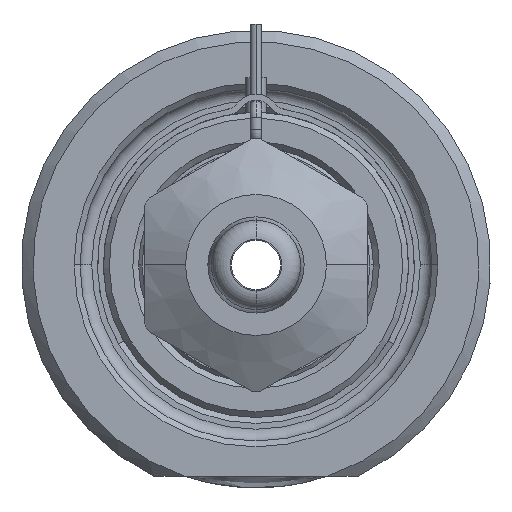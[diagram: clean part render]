
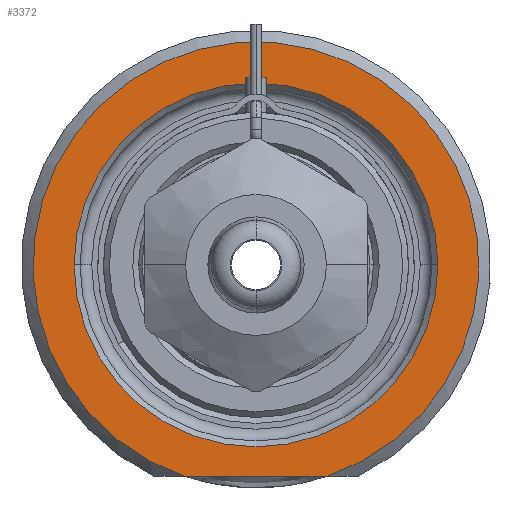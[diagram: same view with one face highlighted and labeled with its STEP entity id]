
A CAD part, front view. The second image highlights one B-rep face of the part: STEP entity #3372.
In plain terms, the highlighted planar face has unit normal (0, -1, 0).
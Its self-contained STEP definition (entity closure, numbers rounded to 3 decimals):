
#1=DIRECTION('',(1.,0.,0.));
#2=VECTOR('',#1,12.166);
#3=CARTESIAN_POINT('',(-6.083,0.,-18.));
#4=LINE('',#3,#2);
#5=CARTESIAN_POINT('',(0.,0.,0.));
#6=DIRECTION('',(0.,1.,0.));
#7=DIRECTION('',(-1.,0.,0.));
#8=AXIS2_PLACEMENT_3D('',#5,#6,#7);
#10=CARTESIAN_POINT('',(0.,0.,0.));
#11=DIRECTION('',(0.,1.,0.));
#12=DIRECTION('',(1.,0.,0.));
#13=AXIS2_PLACEMENT_3D('',#10,#11,#12);
#264=CARTESIAN_POINT('',(0.,0.,0.));
#265=DIRECTION('',(0.,-1.,0.));
#266=DIRECTION('',(0.32,0.,-0.947));
#267=AXIS2_PLACEMENT_3D('',#264,#265,#266);
#2828=CARTESIAN_POINT('',(-15.5,0.,0.));
#2829=CARTESIAN_POINT('',(15.5,0.,0.));
#2830=VERTEX_POINT('',#2828);
#2831=VERTEX_POINT('',#2829);
#2886=CARTESIAN_POINT('',(-6.083,0.,-18.));
#2887=CARTESIAN_POINT('',(6.083,0.,-18.));
#2888=VERTEX_POINT('',#2886);
#2889=VERTEX_POINT('',#2887);
#3355=CARTESIAN_POINT('',(0.,0.,0.));
#3356=DIRECTION('',(0.,-1.,0.));
#3357=DIRECTION('',(1.,0.,0.));
#3358=AXIS2_PLACEMENT_3D('',#3355,#3356,#3357);
#3359=PLANE('',#3358);
#3361=ORIENTED_EDGE('',*,*,#3360,.F.);
#3363=ORIENTED_EDGE('',*,*,#3362,.F.);
#3364=EDGE_LOOP('',(#3361,#3363));
#3365=FACE_OUTER_BOUND('',#3364,.F.);
#3367=ORIENTED_EDGE('',*,*,#3366,.F.);
#3369=ORIENTED_EDGE('',*,*,#3368,.F.);
#3370=EDGE_LOOP('',(#3367,#3369));
#3371=FACE_BOUND('',#3370,.F.);
#3372=ADVANCED_FACE('',(#3365,#3371),#3359,.T.);
#9=CIRCLE('',#8,15.5);
#14=CIRCLE('',#13,15.5);
#268=CIRCLE('',#267,19.);
#3360=EDGE_CURVE('',#2888,#2889,#4,.T.);
#3362=EDGE_CURVE('',#2889,#2888,#268,.T.);
#3366=EDGE_CURVE('',#2830,#2831,#9,.T.);
#3368=EDGE_CURVE('',#2831,#2830,#14,.T.);
